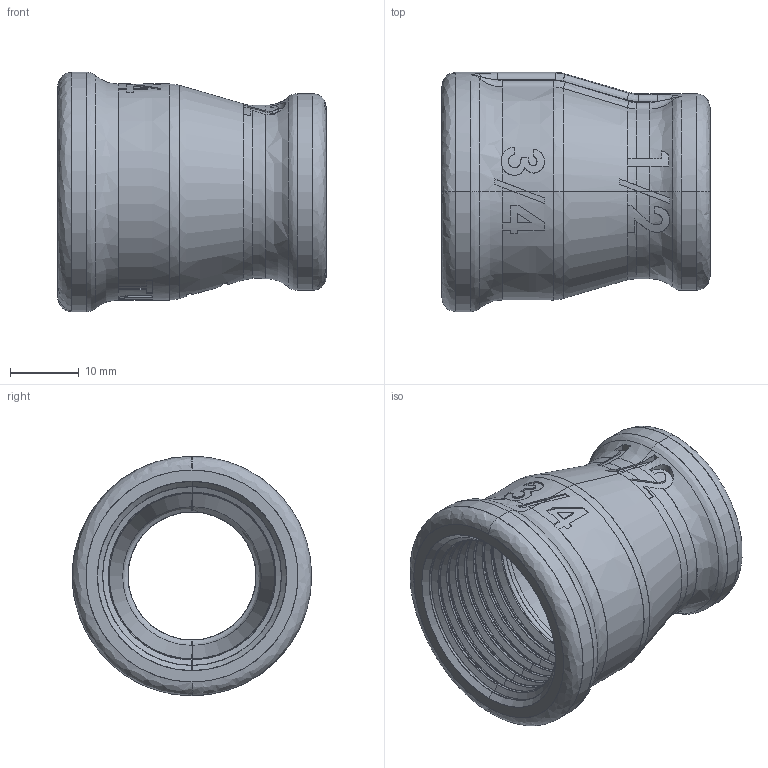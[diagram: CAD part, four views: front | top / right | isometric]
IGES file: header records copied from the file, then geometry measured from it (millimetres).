
Start section: SolidWorks IGES file using analytic representation for surfaces
Global section: file name: C:\Users\Joel Rosa\Desktop\Tubulação\12-32-OK\12-32-029.IGS; native system: SolidWorks 2011; preprocessor: SolidWorks 2011; author: Joel Rosa; date: 121208.223929; units: millimetre
Bounding box: 39 x 34.8 x 34.8 mm (x, y, z)
Surface area: 8649.6 mm2 (no closed solid volume)
Topology: 0 solids, 0 shells, 395 faces, 3523 edges, 3519 vertices
Faces by surface type: bspline 278, revolution 117
